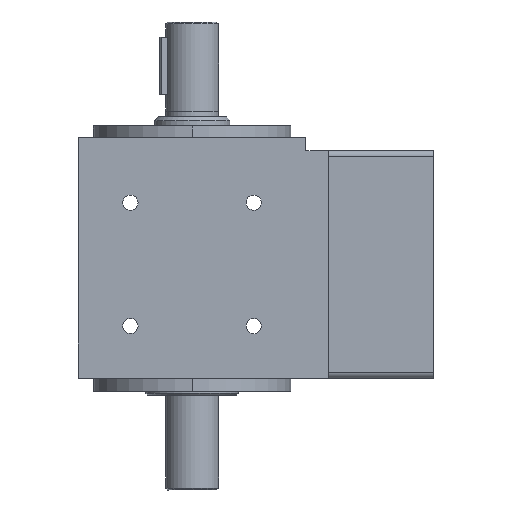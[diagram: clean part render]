
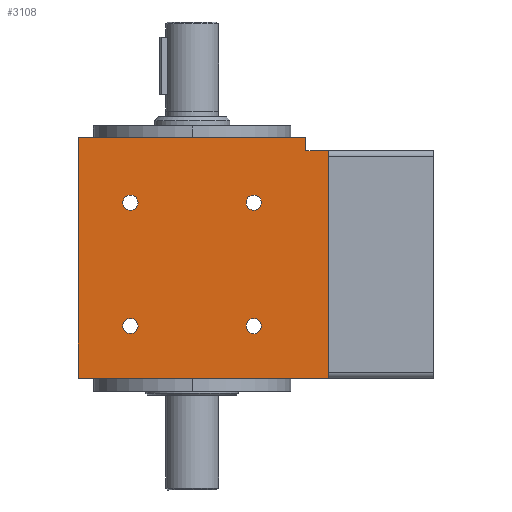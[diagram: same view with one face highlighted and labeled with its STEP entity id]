
A CAD part, left-side view. The second image highlights one B-rep face of the part: STEP entity #3108.
In plain terms, the highlighted planar face has unit normal (-1, 0, 0).
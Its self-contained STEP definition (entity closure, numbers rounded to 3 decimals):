
#78 = AXIS2_PLACEMENT_3D ( 'NONE', #3029, #160, #3489 ) ;
#87 = DIRECTION ( 'NONE',  ( 0., -1., 0. ) ) ;
#120 = PLANE ( 'NONE',  #5608 ) ;
#157 = CIRCLE ( 'NONE', #5625, 2. ) ;
#160 = DIRECTION ( 'NONE',  ( 1., 0., 0. ) ) ;
#171 = EDGE_CURVE ( 'NONE', #2100, #5043, #157, .T. ) ;
#180 = EDGE_CURVE ( 'NONE', #4779, #5335, #5935, .T. ) ;
#260 = ORIENTED_EDGE ( 'NONE', *, *, #763, .T. ) ;
#282 = CARTESIAN_POINT ( 'NONE',  ( -30., -16.263, 15.737 ) ) ;
#313 = CIRCLE ( 'NONE', #4015, 2. ) ;
#321 = CARTESIAN_POINT ( 'NONE',  ( -30., -16.263, 13.737 ) ) ;
#370 = CARTESIAN_POINT ( 'NONE',  ( -30., -16.263, 48.263 ) ) ;
#413 = ORIENTED_EDGE ( 'NONE', *, *, #5746, .T. ) ;
#430 = DIRECTION ( 'NONE',  ( 0., 0., -1. ) ) ;
#442 = CARTESIAN_POINT ( 'NONE',  ( -30., 30., 63.5 ) ) ;
#465 = VECTOR ( 'NONE', #4300, 1000. ) ;
#480 = CARTESIAN_POINT ( 'NONE',  ( -30., -36., 60. ) ) ;
#554 = EDGE_CURVE ( 'NONE', #2779, #5254, #5286, .T. ) ;
#560 = VERTEX_POINT ( 'NONE', #5544 ) ;
#585 = ORIENTED_EDGE ( 'NONE', *, *, #4001, .T. ) ;
#648 = CARTESIAN_POINT ( 'NONE',  ( -30., -36., 0. ) ) ;
#659 = VERTEX_POINT ( 'NONE', #3184 ) ;
#726 = VERTEX_POINT ( 'NONE', #480 ) ;
#753 = EDGE_LOOP ( 'NONE', ( #2739, #5439 ) ) ;
#763 = EDGE_CURVE ( 'NONE', #726, #560, #3946, .T. ) ;
#780 = CIRCLE ( 'NONE', #5176, 2. ) ;
#862 = FACE_BOUND ( 'NONE', #2720, .T. ) ;
#874 = VERTEX_POINT ( 'NONE', #442 ) ;
#913 = CARTESIAN_POINT ( 'NONE',  ( -30., -36., 0. ) ) ;
#976 = AXIS2_PLACEMENT_3D ( 'NONE', #2712, #6000, #3189 ) ;
#1000 = EDGE_CURVE ( 'NONE', #2363, #560, #1440, .T. ) ;
#1092 = DIRECTION ( 'NONE',  ( 1., 0., 0. ) ) ;
#1141 = EDGE_CURVE ( 'NONE', #659, #3020, #313, .T. ) ;
#1309 = CARTESIAN_POINT ( 'NONE',  ( -30., -16.263, 46.263 ) ) ;
#1378 = CARTESIAN_POINT ( 'NONE',  ( -30., -30., 63.5 ) ) ;
#1418 = DIRECTION ( 'NONE',  ( 0., 0., -1. ) ) ;
#1440 = LINE ( 'NONE', #2384, #4478 ) ;
#1557 = CARTESIAN_POINT ( 'NONE',  ( -30., 16.263, 11.737 ) ) ;
#1561 = CARTESIAN_POINT ( 'NONE',  ( -30., -16.263, 46.263 ) ) ;
#1573 = CIRCLE ( 'NONE', #3111, 2. ) ;
#1584 = DIRECTION ( 'NONE',  ( 1., 0., 0. ) ) ;
#1588 = VECTOR ( 'NONE', #87, 1000. ) ;
#1754 = VECTOR ( 'NONE', #3635, 1000. ) ;
#1894 = DIRECTION ( 'NONE',  ( 0., 0., -1. ) ) ;
#1902 = VECTOR ( 'NONE', #1894, 1000. ) ;
#1967 = DIRECTION ( 'NONE',  ( 1., 0., 0. ) ) ;
#1986 = FACE_BOUND ( 'NONE', #5406, .T. ) ;
#2052 = DIRECTION ( 'NONE',  ( 0., 0., -1. ) ) ;
#2100 = VERTEX_POINT ( 'NONE', #282 ) ;
#2103 = ORIENTED_EDGE ( 'NONE', *, *, #3377, .T. ) ;
#2224 = DIRECTION ( 'NONE',  ( 0., 0., -1. ) ) ;
#2258 = VECTOR ( 'NONE', #430, 1000. ) ;
#2333 = CARTESIAN_POINT ( 'NONE',  ( -30., 16.263, 15.737 ) ) ;
#2343 = ORIENTED_EDGE ( 'NONE', *, *, #1000, .F. ) ;
#2363 = VERTEX_POINT ( 'NONE', #1378 ) ;
#2368 = VERTEX_POINT ( 'NONE', #2333 ) ;
#2369 = ORIENTED_EDGE ( 'NONE', *, *, #3137, .T. ) ;
#2384 = CARTESIAN_POINT ( 'NONE',  ( -30., -30., 63.5 ) ) ;
#2503 = DIRECTION ( 'NONE',  ( 1., 0., 0. ) ) ;
#2588 = DIRECTION ( 'NONE',  ( 0., 0., -1. ) ) ;
#2630 = VERTEX_POINT ( 'NONE', #1557 ) ;
#2712 = CARTESIAN_POINT ( 'NONE',  ( -30., 16.263, 46.263 ) ) ;
#2720 = EDGE_LOOP ( 'NONE', ( #5054, #5294 ) ) ;
#2728 = EDGE_CURVE ( 'NONE', #3020, #659, #5125, .T. ) ;
#2739 = ORIENTED_EDGE ( 'NONE', *, *, #1141, .T. ) ;
#2779 = VERTEX_POINT ( 'NONE', #370 ) ;
#2931 = CARTESIAN_POINT ( 'NONE',  ( -30., 16.263, 44.263 ) ) ;
#3020 = VERTEX_POINT ( 'NONE', #2931 ) ;
#3029 = CARTESIAN_POINT ( 'NONE',  ( -30., 16.263, 13.737 ) ) ;
#3083 = FACE_BOUND ( 'NONE', #753, .T. ) ;
#3108 = ADVANCED_FACE ( 'NONE', ( #3384, #1986, #4348, #862, #3083 ), #120, .F. ) ;
#3111 = AXIS2_PLACEMENT_3D ( 'NONE', #1561, #4863, #2052 ) ;
#3137 = EDGE_CURVE ( 'NONE', #2368, #2630, #5291, .T. ) ;
#3184 = CARTESIAN_POINT ( 'NONE',  ( -30., 16.263, 48.263 ) ) ;
#3189 = DIRECTION ( 'NONE',  ( 0., 0., -1. ) ) ;
#3245 = ORIENTED_EDGE ( 'NONE', *, *, #554, .T. ) ;
#3377 = EDGE_CURVE ( 'NONE', #2630, #2368, #780, .T. ) ;
#3384 = FACE_BOUND ( 'NONE', #3493, .T. ) ;
#3469 = ORIENTED_EDGE ( 'NONE', *, *, #180, .T. ) ;
#3489 = DIRECTION ( 'NONE',  ( 0., 0., -1. ) ) ;
#3493 = EDGE_LOOP ( 'NONE', ( #3245, #413 ) ) ;
#3635 = DIRECTION ( 'NONE',  ( 0., -1., 0. ) ) ;
#3639 = DIRECTION ( 'NONE',  ( 1., 0., 0. ) ) ;
#3775 = AXIS2_PLACEMENT_3D ( 'NONE', #1309, #4671, #2588 ) ;
#3821 = LINE ( 'NONE', #5768, #1588 ) ;
#3854 = EDGE_CURVE ( 'NONE', #726, #5335, #4407, .T. ) ;
#3927 = CARTESIAN_POINT ( 'NONE',  ( -30., -30., 63.5 ) ) ;
#3946 = LINE ( 'NONE', #5237, #465 ) ;
#3982 = EDGE_LOOP ( 'NONE', ( #3469, #4077, #260, #2343, #6059, #585 ) ) ;
#4001 = EDGE_CURVE ( 'NONE', #874, #4779, #6019, .T. ) ;
#4015 = AXIS2_PLACEMENT_3D ( 'NONE', #4428, #1584, #4887 ) ;
#4077 = ORIENTED_EDGE ( 'NONE', *, *, #3854, .F. ) ;
#4300 = DIRECTION ( 'NONE',  ( 0., 1., 0. ) ) ;
#4348 = FACE_OUTER_BOUND ( 'NONE', #3982, .T. ) ;
#4361 = CARTESIAN_POINT ( 'NONE',  ( -30., 30., 0. ) ) ;
#4407 = LINE ( 'NONE', #913, #1902 ) ;
#4413 = DIRECTION ( 'NONE',  ( 0., 1., 0. ) ) ;
#4428 = CARTESIAN_POINT ( 'NONE',  ( -30., 16.263, 46.263 ) ) ;
#4478 = VECTOR ( 'NONE', #1418, 1000. ) ;
#4551 = CARTESIAN_POINT ( 'NONE',  ( -30., 30., 63.5 ) ) ;
#4577 = CARTESIAN_POINT ( 'NONE',  ( -30., -16.263, 11.737 ) ) ;
#4671 = DIRECTION ( 'NONE',  ( 1., 0., 0. ) ) ;
#4713 = CARTESIAN_POINT ( 'NONE',  ( -30., -16.263, 13.737 ) ) ;
#4779 = VERTEX_POINT ( 'NONE', #4361 ) ;
#4799 = EDGE_CURVE ( 'NONE', #874, #2363, #3821, .T. ) ;
#4863 = DIRECTION ( 'NONE',  ( 1., 0., 0. ) ) ;
#4887 = DIRECTION ( 'NONE',  ( 0., 0., -1. ) ) ;
#5043 = VERTEX_POINT ( 'NONE', #4577 ) ;
#5054 = ORIENTED_EDGE ( 'NONE', *, *, #171, .T. ) ;
#5125 = CIRCLE ( 'NONE', #976, 2. ) ;
#5176 = AXIS2_PLACEMENT_3D ( 'NONE', #5315, #2503, #5787 ) ;
#5237 = CARTESIAN_POINT ( 'NONE',  ( -30., -36., 60. ) ) ;
#5254 = VERTEX_POINT ( 'NONE', #5303 ) ;
#5258 = DIRECTION ( 'NONE',  ( 0., 0., -1. ) ) ;
#5286 = CIRCLE ( 'NONE', #3775, 2. ) ;
#5291 = CIRCLE ( 'NONE', #78, 2. ) ;
#5294 = ORIENTED_EDGE ( 'NONE', *, *, #5659, .T. ) ;
#5303 = CARTESIAN_POINT ( 'NONE',  ( -30., -16.263, 44.263 ) ) ;
#5315 = CARTESIAN_POINT ( 'NONE',  ( -30., 16.263, 13.737 ) ) ;
#5335 = VERTEX_POINT ( 'NONE', #648 ) ;
#5406 = EDGE_LOOP ( 'NONE', ( #2369, #2103 ) ) ;
#5439 = ORIENTED_EDGE ( 'NONE', *, *, #2728, .T. ) ;
#5526 = CARTESIAN_POINT ( 'NONE',  ( -30., -30., 0. ) ) ;
#5544 = CARTESIAN_POINT ( 'NONE',  ( -30., -30., 60. ) ) ;
#5608 = AXIS2_PLACEMENT_3D ( 'NONE', #3927, #1092, #4413 ) ;
#5625 = AXIS2_PLACEMENT_3D ( 'NONE', #321, #3639, #2224 ) ;
#5645 = CIRCLE ( 'NONE', #6071, 2. ) ;
#5659 = EDGE_CURVE ( 'NONE', #5043, #2100, #5645, .T. ) ;
#5746 = EDGE_CURVE ( 'NONE', #5254, #2779, #1573, .T. ) ;
#5768 = CARTESIAN_POINT ( 'NONE',  ( -30., -30., 63.5 ) ) ;
#5787 = DIRECTION ( 'NONE',  ( 0., 0., -1. ) ) ;
#5935 = LINE ( 'NONE', #5526, #1754 ) ;
#6000 = DIRECTION ( 'NONE',  ( 1., 0., 0. ) ) ;
#6019 = LINE ( 'NONE', #4551, #2258 ) ;
#6059 = ORIENTED_EDGE ( 'NONE', *, *, #4799, .F. ) ;
#6071 = AXIS2_PLACEMENT_3D ( 'NONE', #4713, #1967, #5258 ) ;
